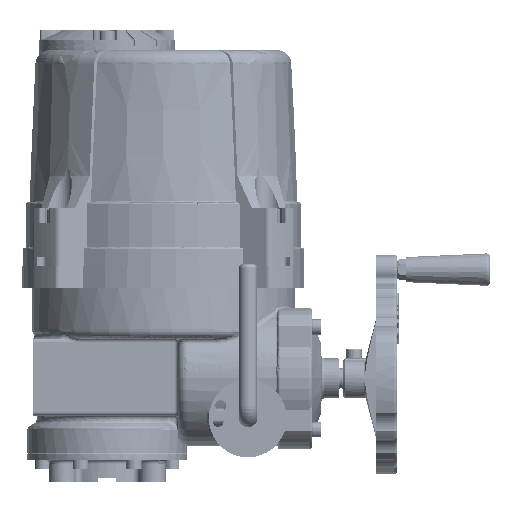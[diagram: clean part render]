
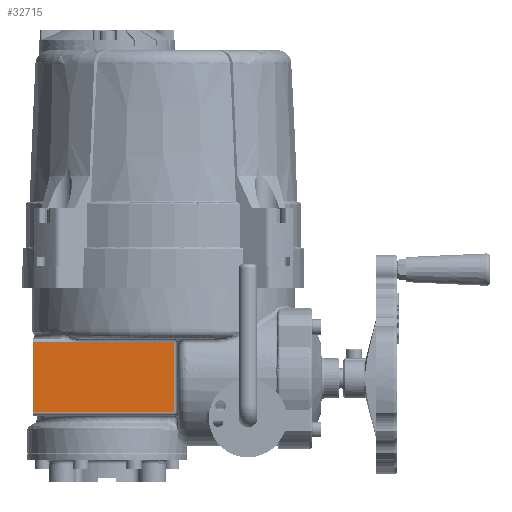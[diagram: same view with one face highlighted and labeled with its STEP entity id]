
A CAD part, left-side view. The second image highlights one B-rep face of the part: STEP entity #32715.
In plain terms, the highlighted planar face has unit normal (-1, 0, 0).
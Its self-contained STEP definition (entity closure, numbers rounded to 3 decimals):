
#23623 = CYLINDRICAL_SURFACE('',#23624,2.);
#23624 = AXIS2_PLACEMENT_3D('',#23625,#23626,#23627);
#23625 = CARTESIAN_POINT('',(-77.543,-138.676,176.5));
#23626 = DIRECTION('',(0.,0.,-1.));
#23627 = DIRECTION('',(0.,1.,0.));
#28485 = CYLINDRICAL_SURFACE('',#28486,2.);
#28486 = AXIS2_PLACEMENT_3D('',#28487,#28488,#28489);
#28487 = CARTESIAN_POINT('',(-77.543,-60.676,174.5));
#28488 = DIRECTION('',(0.,-1.,0.));
#28489 = DIRECTION('',(1.,0.,0.));
#32500 = PLANE('',#32501);
#32501 = AXIS2_PLACEMENT_3D('',#32502,#32503,#32504);
#32502 = CARTESIAN_POINT('',(-27.543,-60.676,176.5));
#32503 = DIRECTION('',(0.,1.,0.));
#32504 = DIRECTION('',(-1.,0.,0.));
#32607 = CYLINDRICAL_SURFACE('',#32608,2.);
#32608 = AXIS2_PLACEMENT_3D('',#32609,#32610,#32611);
#32609 = CARTESIAN_POINT('',(-73.543,-60.676,136.));
#32610 = DIRECTION('',(0.,-1.,0.));
#32611 = DIRECTION('',(1.,0.,0.));
#32682 = CYLINDRICAL_SURFACE('',#32683,2.);
#32683 = AXIS2_PLACEMENT_3D('',#32684,#32685,#32686);
#32684 = CARTESIAN_POINT('',(-73.543,-60.676,174.5));
#32685 = DIRECTION('',(0.,-1.,0.));
#32686 = DIRECTION('',(1.,0.,0.));
#32715 = ADVANCED_FACE('',(#32716),#32730,.F.);
#32716 = FACE_BOUND('',#32717,.T.);
#32717 = EDGE_LOOP('',(#32718,#32748,#32771,#32794,#32817));
#32718 = ORIENTED_EDGE('',*,*,#32719,.T.);
#32719 = EDGE_CURVE('',#32720,#32722,#32724,.T.);
#32720 = VERTEX_POINT('',#32721);
#32721 = CARTESIAN_POINT('',(-75.543,-60.676,136.));
#32722 = VERTEX_POINT('',#32723);
#32723 = CARTESIAN_POINT('',(-75.543,-138.676,136.));
#32724 = SURFACE_CURVE('',#32725,(#32729,#32741),.PCURVE_S1.);
#32725 = LINE('',#32726,#32727);
#32726 = CARTESIAN_POINT('',(-75.543,-60.676,136.));
#32727 = VECTOR('',#32728,1.);
#32728 = DIRECTION('',(0.,-1.,0.));
#32729 = PCURVE('',#32730,#32735);
#32730 = PLANE('',#32731);
#32731 = AXIS2_PLACEMENT_3D('',#32732,#32733,#32734);
#32732 = CARTESIAN_POINT('',(-75.543,-60.676,176.5));
#32733 = DIRECTION('',(1.,0.,0.));
#32734 = DIRECTION('',(-0.,1.,0.));
#32735 = DEFINITIONAL_REPRESENTATION('',(#32736),#32740);
#32736 = LINE('',#32737,#32738);
#32737 = CARTESIAN_POINT('',(0.,-40.5));
#32738 = VECTOR('',#32739,1.);
#32739 = DIRECTION('',(-1.,0.));
#32740 = ( GEOMETRIC_REPRESENTATION_CONTEXT(2) 
PARAMETRIC_REPRESENTATION_CONTEXT() REPRESENTATION_CONTEXT('2D SPACE',''
  ) );
#32741 = PCURVE('',#32607,#32742);
#32742 = DEFINITIONAL_REPRESENTATION('',(#32743),#32747);
#32743 = LINE('',#32744,#32745);
#32744 = CARTESIAN_POINT('',(3.142,0.));
#32745 = VECTOR('',#32746,1.);
#32746 = DIRECTION('',(0.,1.));
#32747 = ( GEOMETRIC_REPRESENTATION_CONTEXT(2) 
PARAMETRIC_REPRESENTATION_CONTEXT() REPRESENTATION_CONTEXT('2D SPACE',''
  ) );
#32748 = ORIENTED_EDGE('',*,*,#32749,.T.);
#32749 = EDGE_CURVE('',#32722,#32750,#32752,.T.);
#32750 = VERTEX_POINT('',#32751);
#32751 = CARTESIAN_POINT('',(-75.543,-138.676,174.5));
#32752 = SURFACE_CURVE('',#32753,(#32757,#32764),.PCURVE_S1.);
#32753 = LINE('',#32754,#32755);
#32754 = CARTESIAN_POINT('',(-75.543,-138.676,174.5));
#32755 = VECTOR('',#32756,1.);
#32756 = DIRECTION('',(0.,0.,1.));
#32757 = PCURVE('',#32730,#32758);
#32758 = DEFINITIONAL_REPRESENTATION('',(#32759),#32763);
#32759 = LINE('',#32760,#32761);
#32760 = CARTESIAN_POINT('',(-78.,-2.));
#32761 = VECTOR('',#32762,1.);
#32762 = DIRECTION('',(0.,1.));
#32763 = ( GEOMETRIC_REPRESENTATION_CONTEXT(2) 
PARAMETRIC_REPRESENTATION_CONTEXT() REPRESENTATION_CONTEXT('2D SPACE',''
  ) );
#32764 = PCURVE('',#23623,#32765);
#32765 = DEFINITIONAL_REPRESENTATION('',(#32766),#32770);
#32766 = LINE('',#32767,#32768);
#32767 = CARTESIAN_POINT('',(1.571,2.));
#32768 = VECTOR('',#32769,1.);
#32769 = DIRECTION('',(0.,-1.));
#32770 = ( GEOMETRIC_REPRESENTATION_CONTEXT(2) 
PARAMETRIC_REPRESENTATION_CONTEXT() REPRESENTATION_CONTEXT('2D SPACE',''
  ) );
#32771 = ORIENTED_EDGE('',*,*,#32772,.T.);
#32772 = EDGE_CURVE('',#32750,#32773,#32775,.T.);
#32773 = VERTEX_POINT('',#32774);
#32774 = CARTESIAN_POINT('',(-75.543,-87.33,174.5));
#32775 = SURFACE_CURVE('',#32776,(#32780,#32787),.PCURVE_S1.);
#32776 = LINE('',#32777,#32778);
#32777 = CARTESIAN_POINT('',(-75.543,-60.676,174.5));
#32778 = VECTOR('',#32779,1.);
#32779 = DIRECTION('',(0.,1.,0.));
#32780 = PCURVE('',#32730,#32781);
#32781 = DEFINITIONAL_REPRESENTATION('',(#32782),#32786);
#32782 = LINE('',#32783,#32784);
#32783 = CARTESIAN_POINT('',(0.,-2.));
#32784 = VECTOR('',#32785,1.);
#32785 = DIRECTION('',(1.,0.));
#32786 = ( GEOMETRIC_REPRESENTATION_CONTEXT(2) 
PARAMETRIC_REPRESENTATION_CONTEXT() REPRESENTATION_CONTEXT('2D SPACE',''
  ) );
#32787 = PCURVE('',#28485,#32788);
#32788 = DEFINITIONAL_REPRESENTATION('',(#32789),#32793);
#32789 = LINE('',#32790,#32791);
#32790 = CARTESIAN_POINT('',(0.,0.));
#32791 = VECTOR('',#32792,1.);
#32792 = DIRECTION('',(0.,-1.));
#32793 = ( GEOMETRIC_REPRESENTATION_CONTEXT(2) 
PARAMETRIC_REPRESENTATION_CONTEXT() REPRESENTATION_CONTEXT('2D SPACE',''
  ) );
#32794 = ORIENTED_EDGE('',*,*,#32795,.T.);
#32795 = EDGE_CURVE('',#32773,#32796,#32798,.T.);
#32796 = VERTEX_POINT('',#32797);
#32797 = CARTESIAN_POINT('',(-75.543,-60.676,174.5));
#32798 = SURFACE_CURVE('',#32799,(#32803,#32810),.PCURVE_S1.);
#32799 = LINE('',#32800,#32801);
#32800 = CARTESIAN_POINT('',(-75.543,-60.676,174.5));
#32801 = VECTOR('',#32802,1.);
#32802 = DIRECTION('',(0.,1.,0.));
#32803 = PCURVE('',#32730,#32804);
#32804 = DEFINITIONAL_REPRESENTATION('',(#32805),#32809);
#32805 = LINE('',#32806,#32807);
#32806 = CARTESIAN_POINT('',(0.,-2.));
#32807 = VECTOR('',#32808,1.);
#32808 = DIRECTION('',(1.,0.));
#32809 = ( GEOMETRIC_REPRESENTATION_CONTEXT(2) 
PARAMETRIC_REPRESENTATION_CONTEXT() REPRESENTATION_CONTEXT('2D SPACE',''
  ) );
#32810 = PCURVE('',#32682,#32811);
#32811 = DEFINITIONAL_REPRESENTATION('',(#32812),#32816);
#32812 = LINE('',#32813,#32814);
#32813 = CARTESIAN_POINT('',(3.142,0.));
#32814 = VECTOR('',#32815,1.);
#32815 = DIRECTION('',(0.,-1.));
#32816 = ( GEOMETRIC_REPRESENTATION_CONTEXT(2) 
PARAMETRIC_REPRESENTATION_CONTEXT() REPRESENTATION_CONTEXT('2D SPACE',''
  ) );
#32817 = ORIENTED_EDGE('',*,*,#32818,.F.);
#32818 = EDGE_CURVE('',#32720,#32796,#32819,.T.);
#32819 = SURFACE_CURVE('',#32820,(#32824,#32831),.PCURVE_S1.);
#32820 = LINE('',#32821,#32822);
#32821 = CARTESIAN_POINT('',(-75.543,-60.676,176.5));
#32822 = VECTOR('',#32823,1.);
#32823 = DIRECTION('',(0.,0.,1.));
#32824 = PCURVE('',#32730,#32825);
#32825 = DEFINITIONAL_REPRESENTATION('',(#32826),#32830);
#32826 = LINE('',#32827,#32828);
#32827 = CARTESIAN_POINT('',(0.,0.));
#32828 = VECTOR('',#32829,1.);
#32829 = DIRECTION('',(0.,1.));
#32830 = ( GEOMETRIC_REPRESENTATION_CONTEXT(2) 
PARAMETRIC_REPRESENTATION_CONTEXT() REPRESENTATION_CONTEXT('2D SPACE',''
  ) );
#32831 = PCURVE('',#32500,#32832);
#32832 = DEFINITIONAL_REPRESENTATION('',(#32833),#32837);
#32833 = LINE('',#32834,#32835);
#32834 = CARTESIAN_POINT('',(48.,0.));
#32835 = VECTOR('',#32836,1.);
#32836 = DIRECTION('',(0.,1.));
#32837 = ( GEOMETRIC_REPRESENTATION_CONTEXT(2) 
PARAMETRIC_REPRESENTATION_CONTEXT() REPRESENTATION_CONTEXT('2D SPACE',''
  ) );
